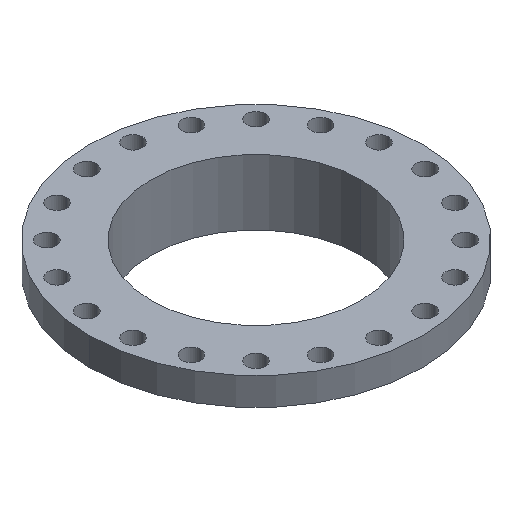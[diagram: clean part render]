
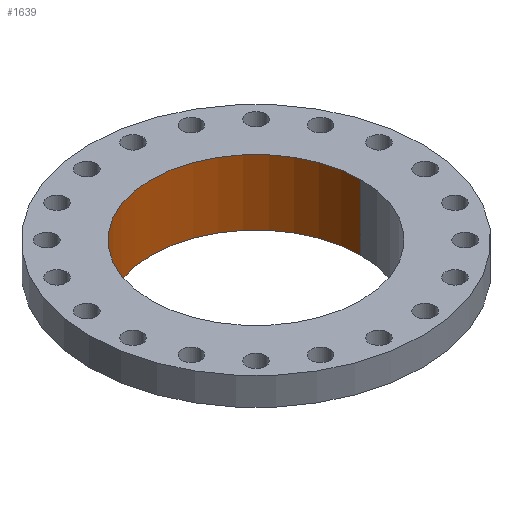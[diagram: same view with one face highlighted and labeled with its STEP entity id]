
A CAD part, isometric view. The second image highlights one B-rep face of the part: STEP entity #1639.
In plain terms, the highlighted cylindrical face has radius 216 mm (diameter 432 mm), a partial arc.
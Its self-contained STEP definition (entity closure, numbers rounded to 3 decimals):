
#36 = VECTOR ( 'NONE', #556, 1000. ) ;
#40 = FACE_OUTER_BOUND ( 'NONE', #54, .T. ) ;
#53 = EDGE_CURVE ( 'NONE', #213, #420, #1621, .T. ) ;
#54 = EDGE_LOOP ( 'NONE', ( #351, #352, #353, #355 ) ) ;
#132 = CARTESIAN_POINT ( 'NONE',  ( 0., 0., -135. ) ) ;
#213 = VERTEX_POINT ( 'NONE', #1668 ) ;
#282 = CARTESIAN_POINT ( 'NONE',  ( 216., 0., -145. ) ) ;
#351 = ORIENTED_EDGE ( 'NONE', *, *, #53, .F. ) ;
#352 = ORIENTED_EDGE ( 'NONE', *, *, #1614, .F. ) ;
#353 = ORIENTED_EDGE ( 'NONE', *, *, #1228, .T. ) ;
#355 = ORIENTED_EDGE ( 'NONE', *, *, #1511, .T. ) ;
#420 = VERTEX_POINT ( 'NONE', #1582 ) ;
#433 = CARTESIAN_POINT ( 'NONE',  ( 0., 0., 0. ) ) ;
#556 = DIRECTION ( 'NONE',  ( 0., 0., -1. ) ) ;
#623 = DIRECTION ( 'NONE',  ( -1., 0., 0. ) ) ;
#781 = CYLINDRICAL_SURFACE ( 'NONE', #1378, 216. ) ;
#840 = DIRECTION ( 'NONE',  ( 0., 0., -1. ) ) ;
#924 = DIRECTION ( 'NONE',  ( 0., 0., -1. ) ) ;
#1027 = DIRECTION ( 'NONE',  ( 0., 0., -1. ) ) ;
#1228 = EDGE_CURVE ( 'NONE', #1544, #1442, #1257, .T. ) ;
#1257 = LINE ( 'NONE', #1805, #36 ) ;
#1311 = AXIS2_PLACEMENT_3D ( 'NONE', #433, #1027, #1590 ) ;
#1315 = CARTESIAN_POINT ( 'NONE',  ( 0., 0., -145. ) ) ;
#1316 = CIRCLE ( 'NONE', #1311, 216. ) ;
#1320 = VECTOR ( 'NONE', #924, 1000. ) ;
#1378 = AXIS2_PLACEMENT_3D ( 'NONE', #1315, #1847, #623 ) ;
#1392 = DIRECTION ( 'NONE',  ( -1., 0., 0. ) ) ;
#1442 = VERTEX_POINT ( 'NONE', #1761 ) ;
#1511 = EDGE_CURVE ( 'NONE', #1442, #420, #1579, .T. ) ;
#1536 = CARTESIAN_POINT ( 'NONE',  ( -216., 0., 0. ) ) ;
#1544 = VERTEX_POINT ( 'NONE', #1536 ) ;
#1579 = CIRCLE ( 'NONE', #1607, 216. ) ;
#1582 = CARTESIAN_POINT ( 'NONE',  ( 216., 0., -135. ) ) ;
#1590 = DIRECTION ( 'NONE',  ( -1., 0., 0. ) ) ;
#1607 = AXIS2_PLACEMENT_3D ( 'NONE', #132, #840, #1392 ) ;
#1614 = EDGE_CURVE ( 'NONE', #1544, #213, #1316, .T. ) ;
#1621 = LINE ( 'NONE', #282, #1320 ) ;
#1639 = ADVANCED_FACE ( 'NONE', ( #40 ), #781, .F. ) ;
#1668 = CARTESIAN_POINT ( 'NONE',  ( 216., 0., 0. ) ) ;
#1761 = CARTESIAN_POINT ( 'NONE',  ( -216., 0., -135. ) ) ;
#1805 = CARTESIAN_POINT ( 'NONE',  ( -216., 0., -145. ) ) ;
#1847 = DIRECTION ( 'NONE',  ( 0., 0., -1. ) ) ;
